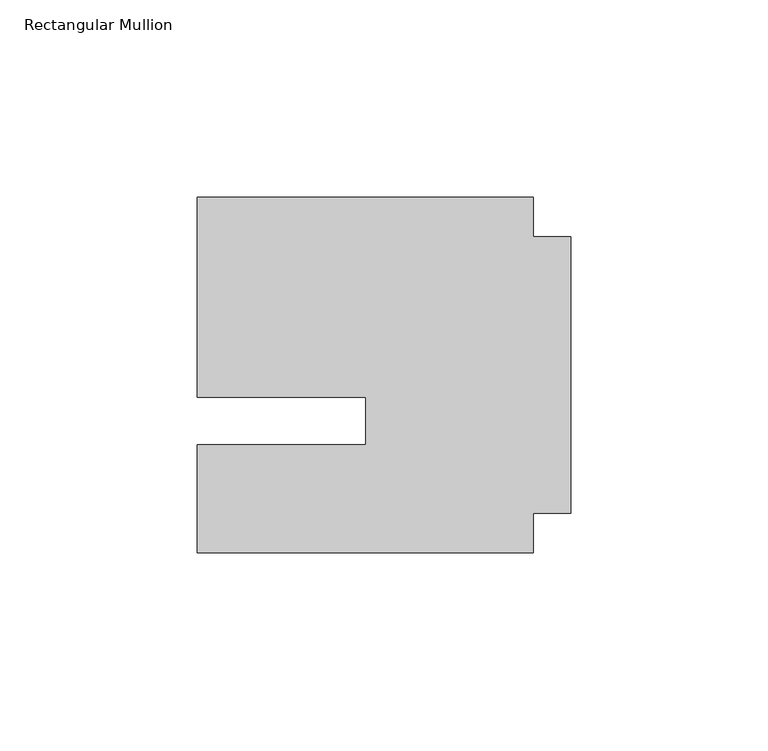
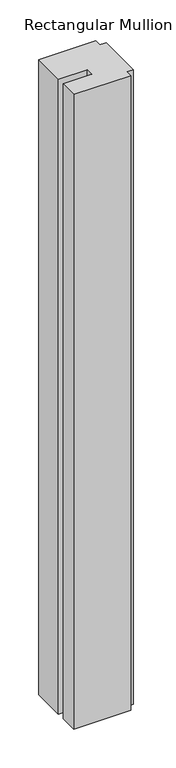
"""IFC4 building model written with IfcOpenShell, lengths in millimetres: member geometry, Rectangular Mullion : Klein_Nature_Profile-Top-Door."""

from ifc_helpers import new_model, si_unit, frame, origin, place, context, project, spatial, polyline, outline, extrude, source, transform, mapped, element, save


def rectangular_mullion_3a5f7653(model_context):
    return source(origin(), model_context, "Body", "SweptSolid", [
        extrude(outline(polyline([(-94.4999981, -5.6500007), (-94.5000018, 44.9999957), (-9.5000061, 45.0000019), (-9.5000054, 34.9999969), (-5.1e-06, 34.9999976), (0.0, -34.9999976), (-9.5000002, -34.9999983), (-9.4999995, -44.9999981), (-94.4999952, -45.0000043), (-94.4999972, -17.6500007), (-51.8500005, -17.6500038), (-51.8499996, -5.6500038), (-94.4999981, -5.6500007)])), frame((0.0, 0.0, -999.9999998), z_axis=(0.0, 0.0, 1.0), x_axis=(1.0, 0.0, 0.0)), (0.0, 0.0, 1.0), 999.9999998),
    ])


if __name__ == "__main__":
    model = new_model("IFC4")
    model_context = context("Model", 3, world=origin())
    ifc_project = project(units=[si_unit("LENGTHUNIT", "METRE", prefix="MILLI")], contexts=[model_context])
    site = spatial("IfcSite", under=ifc_project)
    building = spatial("IfcBuilding", under=site)
    placement = place(None, origin())
    rectangular_mullion_shape = rectangular_mullion_3a5f7653(model_context)
    element("IfcMember", 1, ObjectType="Rectangular Mullion : Klein_Nature_Profile-Top-Door", at=placement, inside=building, context=model_context, shape_type="MappedRepresentation", body=[
        mapped(rectangular_mullion_shape, transform((0.0, 0.0, 0.0), x_axis=(1.0, 0.0, 0.0), y_axis=(0.0, 1.0, 0.0), z_axis=(0.0, 0.0, 1.0))),
    ])
    save(model, "model.ifc")
